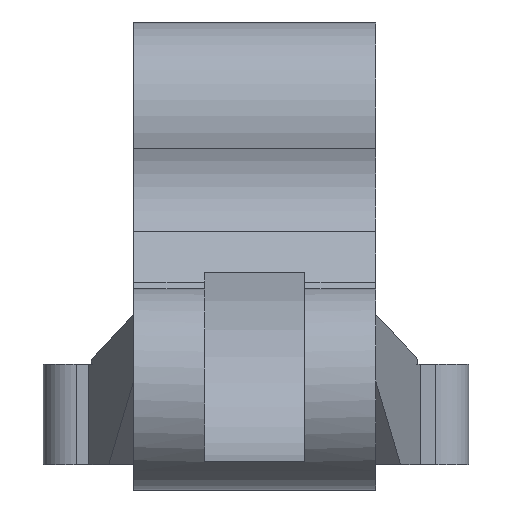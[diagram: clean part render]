
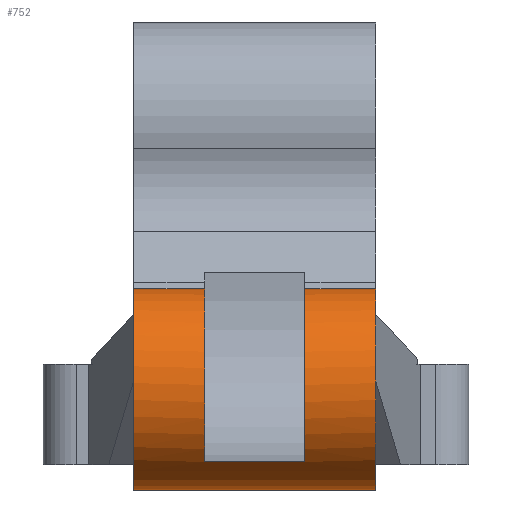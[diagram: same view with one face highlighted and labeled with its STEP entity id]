
A CAD part, front view. The second image highlights one B-rep face of the part: STEP entity #752.
In plain terms, the highlighted cylindrical face has radius 6.02 mm (diameter 12.041 mm), a partial arc.
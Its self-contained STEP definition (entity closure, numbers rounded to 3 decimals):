
#1 = DIRECTION ( 'NONE',  ( 1., 0., 0. ) ) ;
#16 = VECTOR ( 'NONE', #768, 1000. ) ;
#21 = DIRECTION ( 'NONE',  ( 1., 0., 0. ) ) ;
#22 = DIRECTION ( 'NONE',  ( 0., 0.999, 0.032 ) ) ;
#65 = ORIENTED_EDGE ( 'NONE', *, *, #2683, .T. ) ;
#74 = DIRECTION ( 'NONE',  ( 1., 0., 0. ) ) ;
#150 = ORIENTED_EDGE ( 'NONE', *, *, #500, .F. ) ;
#157 = AXIS2_PLACEMENT_3D ( 'NONE', #3038, #2807, #884 ) ;
#172 = CARTESIAN_POINT ( 'NONE',  ( -0.08, -27.518, -26.337 ) ) ;
#178 = VERTEX_POINT ( 'NONE', #1200 ) ;
#204 = VERTEX_POINT ( 'NONE', #235 ) ;
#235 = CARTESIAN_POINT ( 'NONE',  ( 7.17, -21.296, -16.339 ) ) ;
#263 = VECTOR ( 'NONE', #685, 1000. ) ;
#264 = AXIS2_PLACEMENT_3D ( 'NONE', #1993, #74, #1031 ) ;
#287 = DIRECTION ( 'NONE',  ( 0., -0.999, -0.032 ) ) ;
#322 = ORIENTED_EDGE ( 'NONE', *, *, #1964, .F. ) ;
#369 = VECTOR ( 'NONE', #1988, 1000. ) ;
#500 = EDGE_CURVE ( 'NONE', #178, #1459, #1508, .T. ) ;
#611 = DIRECTION ( 'NONE',  ( 1., 0., 0. ) ) ;
#664 = CIRCLE ( 'NONE', #1907, 6.02 ) ;
#685 = DIRECTION ( 'NONE',  ( -1., 0., 0. ) ) ;
#752 = ADVANCED_FACE ( 'NONE', ( #2946 ), #2961, .T. ) ;
#768 = DIRECTION ( 'NONE',  ( 1., 0., 0. ) ) ;
#776 = VERTEX_POINT ( 'NONE', #811 ) ;
#801 = CARTESIAN_POINT ( 'NONE',  ( 7.17, -20.166, -27.118 ) ) ;
#811 = CARTESIAN_POINT ( 'NONE',  ( -7.33, -21.296, -16.339 ) ) ;
#812 = CARTESIAN_POINT ( 'NONE',  ( -7.33, -21.296, -16.339 ) ) ;
#815 = AXIS2_PLACEMENT_3D ( 'NONE', #2654, #1, #287 ) ;
#884 = DIRECTION ( 'NONE',  ( 0., 0.999, 0.032 ) ) ;
#918 = ORIENTED_EDGE ( 'NONE', *, *, #3064, .F. ) ;
#973 = DIRECTION ( 'NONE',  ( 0., -0.999, -0.032 ) ) ;
#982 = LINE ( 'NONE', #1250, #16 ) ;
#1015 = EDGE_CURVE ( 'NONE', #1243, #2401, #664, .T. ) ;
#1031 = DIRECTION ( 'NONE',  ( 0., 0.999, 0.032 ) ) ;
#1039 = CARTESIAN_POINT ( 'NONE',  ( -7.33, -20.166, -27.118 ) ) ;
#1200 = CARTESIAN_POINT ( 'NONE',  ( 2.92, -27.518, -26.337 ) ) ;
#1243 = VERTEX_POINT ( 'NONE', #3108 ) ;
#1250 = CARTESIAN_POINT ( 'NONE',  ( -7.33, -21.296, -16.339 ) ) ;
#1327 = ORIENTED_EDGE ( 'NONE', *, *, #2184, .T. ) ;
#1445 = CARTESIAN_POINT ( 'NONE',  ( -3.08, -23.34, -22.002 ) ) ;
#1459 = VERTEX_POINT ( 'NONE', #1923 ) ;
#1508 = CIRCLE ( 'NONE', #157, 6.02 ) ;
#1697 = ORIENTED_EDGE ( 'NONE', *, *, #2739, .T. ) ;
#1907 = AXIS2_PLACEMENT_3D ( 'NONE', #1445, #2161, #22 ) ;
#1923 = CARTESIAN_POINT ( 'NONE',  ( 2.92, -21.296, -16.339 ) ) ;
#1927 = ORIENTED_EDGE ( 'NONE', *, *, #2656, .F. ) ;
#1951 = CARTESIAN_POINT ( 'NONE',  ( -7.33, -20.166, -27.118 ) ) ;
#1960 = CIRCLE ( 'NONE', #2869, 6.02 ) ;
#1964 = EDGE_CURVE ( 'NONE', #1459, #204, #1981, .T. ) ;
#1981 = LINE ( 'NONE', #812, #2461 ) ;
#1988 = DIRECTION ( 'NONE',  ( 1., 0., 0. ) ) ;
#1993 = CARTESIAN_POINT ( 'NONE',  ( -7.33, -23.34, -22.002 ) ) ;
#2011 = CIRCLE ( 'NONE', #815, 6.02 ) ;
#2161 = DIRECTION ( 'NONE',  ( -1., 0., 0. ) ) ;
#2175 = CARTESIAN_POINT ( 'NONE',  ( 7.17, -23.34, -22.002 ) ) ;
#2184 = EDGE_CURVE ( 'NONE', #178, #1243, #2839, .T. ) ;
#2393 = LINE ( 'NONE', #1039, #369 ) ;
#2401 = VERTEX_POINT ( 'NONE', #2521 ) ;
#2461 = VECTOR ( 'NONE', #611, 1000. ) ;
#2521 = CARTESIAN_POINT ( 'NONE',  ( -3.08, -21.296, -16.339 ) ) ;
#2618 = ORIENTED_EDGE ( 'NONE', *, *, #1015, .T. ) ;
#2654 = CARTESIAN_POINT ( 'NONE',  ( -7.33, -23.34, -22.002 ) ) ;
#2656 = EDGE_CURVE ( 'NONE', #204, #2805, #1960, .T. ) ;
#2683 = EDGE_CURVE ( 'NONE', #776, #3054, #2011, .T. ) ;
#2739 = EDGE_CURVE ( 'NONE', #3054, #2805, #2393, .T. ) ;
#2805 = VERTEX_POINT ( 'NONE', #801 ) ;
#2807 = DIRECTION ( 'NONE',  ( -1., 0., 0. ) ) ;
#2839 = LINE ( 'NONE', #172, #263 ) ;
#2869 = AXIS2_PLACEMENT_3D ( 'NONE', #2175, #21, #973 ) ;
#2946 = FACE_OUTER_BOUND ( 'NONE', #3026, .T. ) ;
#2961 = CYLINDRICAL_SURFACE ( 'NONE', #264, 6.02 ) ;
#3026 = EDGE_LOOP ( 'NONE', ( #150, #1327, #2618, #918, #65, #1697, #1927, #322 ) ) ;
#3038 = CARTESIAN_POINT ( 'NONE',  ( 2.92, -23.34, -22.002 ) ) ;
#3054 = VERTEX_POINT ( 'NONE', #1951 ) ;
#3064 = EDGE_CURVE ( 'NONE', #776, #2401, #982, .T. ) ;
#3108 = CARTESIAN_POINT ( 'NONE',  ( -3.08, -27.518, -26.337 ) ) ;
